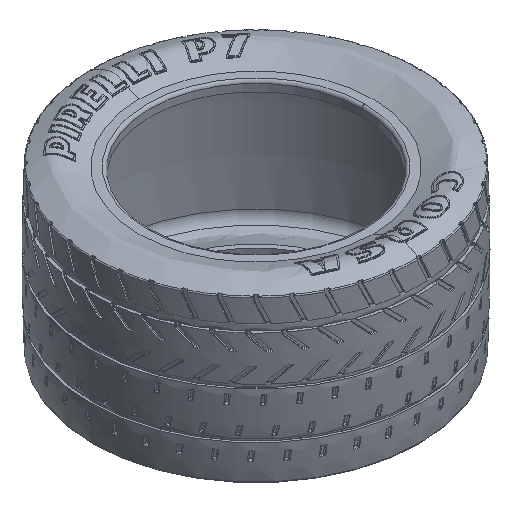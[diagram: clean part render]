
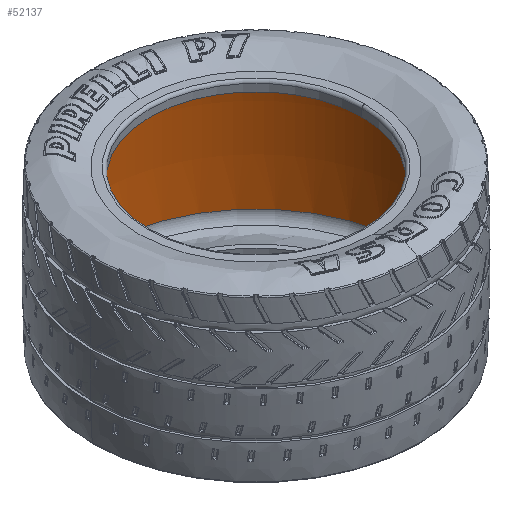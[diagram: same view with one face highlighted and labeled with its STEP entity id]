
A CAD part, isometric view. The second image highlights one B-rep face of the part: STEP entity #52137.
In plain terms, the highlighted toroidal (fillet/blend) face has major radius 3252.3 mm and minor radius 3536 mm.
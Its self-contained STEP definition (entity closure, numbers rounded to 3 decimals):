
#728 = CARTESIAN_POINT ( 'NONE',  ( 0., 0., -4.02 ) ) ;
#6602 = AXIS2_PLACEMENT_3D ( 'NONE', #69736, #143309, #217016 ) ;
#35715 = EDGE_LOOP ( 'NONE', ( #216286, #129008, #186774, #61327 ) ) ;
#41153 = CARTESIAN_POINT ( 'NONE',  ( -281.48, 0., -4.02 ) ) ;
#49764 = CARTESIAN_POINT ( 'NONE',  ( -281.48, 0., -254.58 ) ) ;
#52137 = ADVANCED_FACE ( 'NONE', ( #95537 ), #65284, .F. ) ;
#55664 = CARTESIAN_POINT ( 'NONE',  ( 0., 0., -254.58 ) ) ;
#61327 = ORIENTED_EDGE ( 'NONE', *, *, #91903, .T. ) ;
#65284 = TOROIDAL_SURFACE ( 'NONE', #200151, -3252.3, 3536. ) ;
#69736 = CARTESIAN_POINT ( 'NONE',  ( 3252.3, 0., -129.3 ) ) ;
#74384 = DIRECTION ( 'NONE',  ( 0., 0., -1. ) ) ;
#77447 = CARTESIAN_POINT ( 'NONE',  ( 0., 0., -129.3 ) ) ;
#84900 = CARTESIAN_POINT ( 'NONE',  ( -3252.3, 0., -129.3 ) ) ;
#85353 = VERTEX_POINT ( 'NONE', #41153 ) ;
#87281 = VERTEX_POINT ( 'NONE', #207930 ) ;
#87805 = CARTESIAN_POINT ( 'NONE',  ( 281.48, 0., -254.58 ) ) ;
#89132 = AXIS2_PLACEMENT_3D ( 'NONE', #84900, #158529, #232214 ) ;
#91903 = EDGE_CURVE ( 'NONE', #206735, #114208, #165568, .T. ) ;
#95537 = FACE_OUTER_BOUND ( 'NONE', #35715, .T. ) ;
#110662 = CIRCLE ( 'NONE', #6602, 3536. ) ;
#114208 = VERTEX_POINT ( 'NONE', #87805 ) ;
#129008 = ORIENTED_EDGE ( 'NONE', *, *, #146015, .F. ) ;
#129209 = DIRECTION ( 'NONE',  ( 0., 0., -1. ) ) ;
#143309 = DIRECTION ( 'NONE',  ( 0., -1., 0. ) ) ;
#146015 = EDGE_CURVE ( 'NONE', #85353, #87281, #195856, .T. ) ;
#147984 = DIRECTION ( 'NONE',  ( 1., 0., 0. ) ) ;
#151043 = DIRECTION ( 'NONE',  ( 0., 0., -1. ) ) ;
#152984 = EDGE_CURVE ( 'NONE', #87281, #114208, #193260, .T. ) ;
#158529 = DIRECTION ( 'NONE',  ( 0., 1., 0. ) ) ;
#165568 = CIRCLE ( 'NONE', #196417, 281.48 ) ;
#166289 = EDGE_CURVE ( 'NONE', #85353, #206735, #110662, .T. ) ;
#186774 = ORIENTED_EDGE ( 'NONE', *, *, #166289, .T. ) ;
#193260 = CIRCLE ( 'NONE', #89132, 3536. ) ;
#195856 = CIRCLE ( 'NONE', #226750, 281.48 ) ;
#196417 = AXIS2_PLACEMENT_3D ( 'NONE', #55664, #129209, #202920 ) ;
#200151 = AXIS2_PLACEMENT_3D ( 'NONE', #77447, #151043, #224747 ) ;
#202920 = DIRECTION ( 'NONE',  ( 1., 0., 0. ) ) ;
#206735 = VERTEX_POINT ( 'NONE', #49764 ) ;
#207930 = CARTESIAN_POINT ( 'NONE',  ( 281.48, 0., -4.02 ) ) ;
#216286 = ORIENTED_EDGE ( 'NONE', *, *, #152984, .F. ) ;
#217016 = DIRECTION ( 'NONE',  ( 0., 0., -1. ) ) ;
#224747 = DIRECTION ( 'NONE',  ( -1., 0., 0. ) ) ;
#226750 = AXIS2_PLACEMENT_3D ( 'NONE', #728, #74384, #147984 ) ;
#232214 = DIRECTION ( 'NONE',  ( -1., 0., 0. ) ) ;
